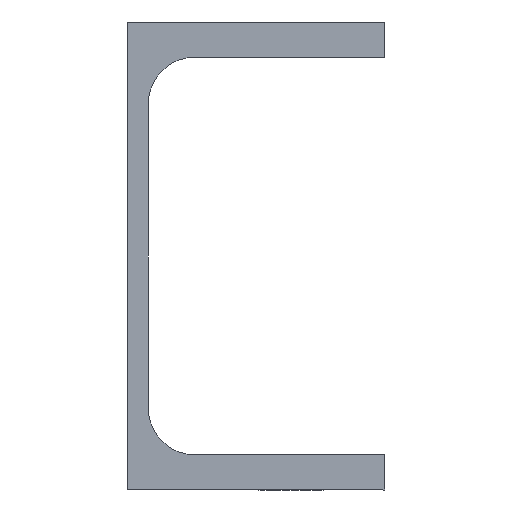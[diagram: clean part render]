
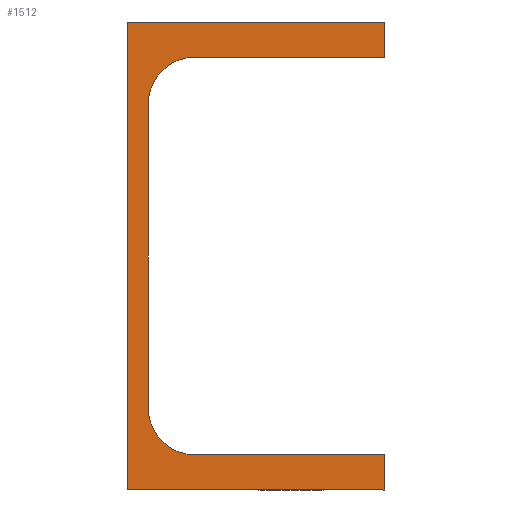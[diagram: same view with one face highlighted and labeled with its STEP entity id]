
A CAD part, left-side view. The second image highlights one B-rep face of the part: STEP entity #1512.
In plain terms, the highlighted planar face has unit normal (-1, 0, 0).
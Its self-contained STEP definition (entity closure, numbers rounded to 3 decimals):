
#18 = VERTEX_POINT ( 'NONE', #1203 ) ;
#80 = VERTEX_POINT ( 'NONE', #3056 ) ;
#119 = EDGE_CURVE ( 'NONE', #2190, #80, #2546, .T. ) ;
#173 = VECTOR ( 'NONE', #812, 1000. ) ;
#188 = ORIENTED_EDGE ( 'NONE', *, *, #2697, .F. ) ;
#244 = VECTOR ( 'NONE', #596, 1000. ) ;
#261 = PLANE ( 'NONE',  #720 ) ;
#308 = ORIENTED_EDGE ( 'NONE', *, *, #119, .F. ) ;
#336 = CARTESIAN_POINT ( 'NONE',  ( 6000., 1945., 2290. ) ) ;
#365 = ORIENTED_EDGE ( 'NONE', *, *, #1770, .F. ) ;
#371 = EDGE_CURVE ( 'NONE', #2209, #530, #2584, .T. ) ;
#394 = CARTESIAN_POINT ( 'NONE',  ( 6000., 1995.5, 2372.5 ) ) ;
#395 = DIRECTION ( 'NONE',  ( 0., 1., 0. ) ) ;
#404 = ORIENTED_EDGE ( 'NONE', *, *, #691, .F. ) ;
#451 = LINE ( 'NONE', #1461, #2139 ) ;
#456 = CARTESIAN_POINT ( 'NONE',  ( 6000., 1945., 2297.5 ) ) ;
#457 = EDGE_CURVE ( 'NONE', #18, #2895, #2561, .T. ) ;
#498 = DIRECTION ( 'NONE',  ( 0., 0., 1. ) ) ;
#530 = VERTEX_POINT ( 'NONE', #849 ) ;
#552 = AXIS2_PLACEMENT_3D ( 'NONE', #1350, #2647, #2392 ) ;
#554 = ORIENTED_EDGE ( 'NONE', *, *, #1380, .F. ) ;
#596 = DIRECTION ( 'NONE',  ( 0., 0., -1. ) ) ;
#607 = VECTOR ( 'NONE', #2699, 1000. ) ;
#691 = EDGE_CURVE ( 'NONE', #1209, #18, #2911, .T. ) ;
#720 = AXIS2_PLACEMENT_3D ( 'NONE', #3067, #2321, #498 ) ;
#766 = VECTOR ( 'NONE', #1496, 1000. ) ;
#777 = CARTESIAN_POINT ( 'NONE',  ( 6000., 1995.5, 2307.5 ) ) ;
#812 = DIRECTION ( 'NONE',  ( 0., -1., 0. ) ) ;
#847 = LINE ( 'NONE', #1847, #244 ) ;
#849 = CARTESIAN_POINT ( 'NONE',  ( 6000., 1945., 2390. ) ) ;
#908 = EDGE_CURVE ( 'NONE', #1330, #1150, #972, .T. ) ;
#972 = LINE ( 'NONE', #456, #1174 ) ;
#1150 = VERTEX_POINT ( 'NONE', #1170 ) ;
#1170 = CARTESIAN_POINT ( 'NONE',  ( 6000., 1945., 2297.5 ) ) ;
#1174 = VECTOR ( 'NONE', #2482, 1000. ) ;
#1203 = CARTESIAN_POINT ( 'NONE',  ( 6000., 1985.5, 2382.5 ) ) ;
#1209 = VERTEX_POINT ( 'NONE', #1439 ) ;
#1225 = VECTOR ( 'NONE', #395, 1000. ) ;
#1237 = DIRECTION ( 'NONE',  ( 0., 0., 1. ) ) ;
#1271 = DIRECTION ( 'NONE',  ( 0., 0., -1. ) ) ;
#1299 = FACE_OUTER_BOUND ( 'NONE', #3273, .T. ) ;
#1302 = LINE ( 'NONE', #3038, #2407 ) ;
#1330 = VERTEX_POINT ( 'NONE', #2301 ) ;
#1350 = CARTESIAN_POINT ( 'NONE',  ( 6000., 1985.5, 2372.5 ) ) ;
#1380 = EDGE_CURVE ( 'NONE', #530, #1209, #1420, .T. ) ;
#1420 = LINE ( 'NONE', #1887, #607 ) ;
#1429 = CARTESIAN_POINT ( 'NONE',  ( 6000., 2000., 2390. ) ) ;
#1439 = CARTESIAN_POINT ( 'NONE',  ( 6000., 1945., 2382.5 ) ) ;
#1461 = CARTESIAN_POINT ( 'NONE',  ( 6000., 2000., 2390. ) ) ;
#1496 = DIRECTION ( 'NONE',  ( 0., 1., 0. ) ) ;
#1511 = CIRCLE ( 'NONE', #2041, 10. ) ;
#1512 = ADVANCED_FACE ( 'NONE', ( #1299 ), #261, .T. ) ;
#1592 = CARTESIAN_POINT ( 'NONE',  ( 6000., 1945., 2390. ) ) ;
#1651 = CARTESIAN_POINT ( 'NONE',  ( 6000., 1985.5, 2382.5 ) ) ;
#1686 = EDGE_CURVE ( 'NONE', #80, #2209, #451, .T. ) ;
#1710 = ORIENTED_EDGE ( 'NONE', *, *, #908, .F. ) ;
#1770 = EDGE_CURVE ( 'NONE', #2895, #1900, #1302, .T. ) ;
#1847 = CARTESIAN_POINT ( 'NONE',  ( 6000., 1945., 2290. ) ) ;
#1887 = CARTESIAN_POINT ( 'NONE',  ( 6000., 1945., 2382.5 ) ) ;
#1900 = VERTEX_POINT ( 'NONE', #777 ) ;
#1950 = EDGE_CURVE ( 'NONE', #1900, #1330, #1511, .T. ) ;
#2041 = AXIS2_PLACEMENT_3D ( 'NONE', #2070, #2558, #2817 ) ;
#2070 = CARTESIAN_POINT ( 'NONE',  ( 6000., 1985.5, 2307.5 ) ) ;
#2139 = VECTOR ( 'NONE', #1237, 1000. ) ;
#2190 = VERTEX_POINT ( 'NONE', #336 ) ;
#2209 = VERTEX_POINT ( 'NONE', #1429 ) ;
#2242 = ORIENTED_EDGE ( 'NONE', *, *, #457, .F. ) ;
#2301 = CARTESIAN_POINT ( 'NONE',  ( 6000., 1985.5, 2297.5 ) ) ;
#2321 = DIRECTION ( 'NONE',  ( -1., 0., 0. ) ) ;
#2392 = DIRECTION ( 'NONE',  ( 0., 0., 1. ) ) ;
#2407 = VECTOR ( 'NONE', #1271, 1000. ) ;
#2482 = DIRECTION ( 'NONE',  ( 0., -1., 0. ) ) ;
#2546 = LINE ( 'NONE', #3024, #766 ) ;
#2558 = DIRECTION ( 'NONE',  ( -1., 0., 0. ) ) ;
#2561 = CIRCLE ( 'NONE', #552, 10. ) ;
#2584 = LINE ( 'NONE', #1592, #173 ) ;
#2604 = ORIENTED_EDGE ( 'NONE', *, *, #1950, .F. ) ;
#2630 = ORIENTED_EDGE ( 'NONE', *, *, #371, .F. ) ;
#2647 = DIRECTION ( 'NONE',  ( -1., 0., 0. ) ) ;
#2697 = EDGE_CURVE ( 'NONE', #1150, #2190, #847, .T. ) ;
#2699 = DIRECTION ( 'NONE',  ( 0., 0., -1. ) ) ;
#2817 = DIRECTION ( 'NONE',  ( 0., 0., 1. ) ) ;
#2895 = VERTEX_POINT ( 'NONE', #394 ) ;
#2911 = LINE ( 'NONE', #1651, #1225 ) ;
#3024 = CARTESIAN_POINT ( 'NONE',  ( 6000., 2000., 2290. ) ) ;
#3038 = CARTESIAN_POINT ( 'NONE',  ( 6000., 1995.5, 2307.5 ) ) ;
#3056 = CARTESIAN_POINT ( 'NONE',  ( 6000., 2000., 2290. ) ) ;
#3067 = CARTESIAN_POINT ( 'NONE',  ( 6000., 1985.5, 2307.5 ) ) ;
#3071 = ORIENTED_EDGE ( 'NONE', *, *, #1686, .F. ) ;
#3273 = EDGE_LOOP ( 'NONE', ( #2630, #3071, #308, #188, #1710, #2604, #365, #2242, #404, #554 ) ) ;
